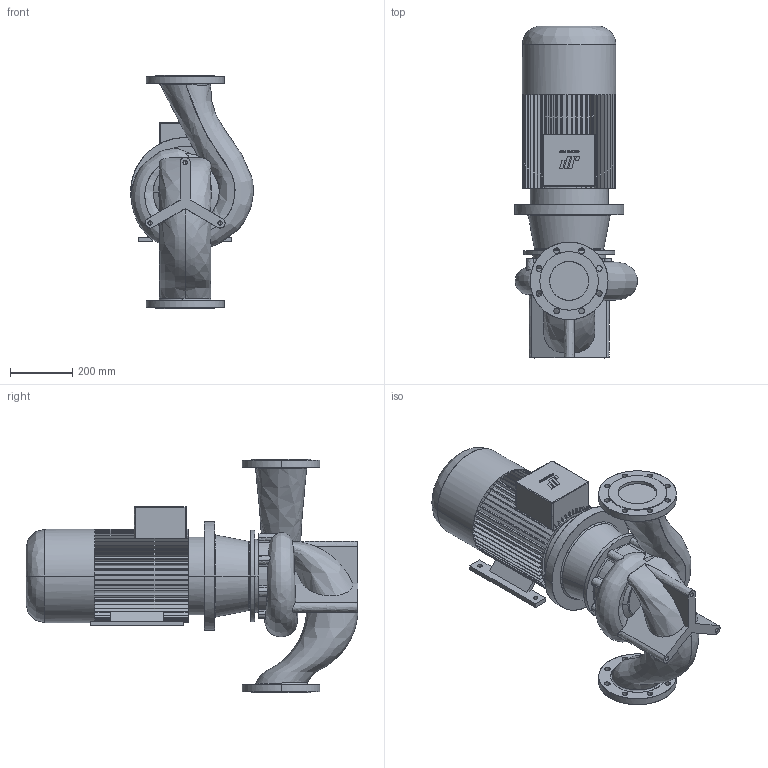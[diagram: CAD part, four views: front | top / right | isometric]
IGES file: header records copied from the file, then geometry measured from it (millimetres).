
Start section: CombiLine
Global section: file name: CLB_125-200_IEC160L_ND10.igs; native system:  By UGS Corp.; preprocessor: XPlus GENERIC/IGES 3.0; author: Stageplaats; organization: Johnson Pump Water B.V.; date: 20070717.133450; units: millimetre
Bounding box: 394.16 x 1067 x 750 mm (x, y, z)
Surface area: 2359603.7 mm2 (no closed solid volume)
Topology: 0 solids, 0 shells, 598 faces, 3625 edges, 3619 vertices
Faces by surface type: bspline 598
